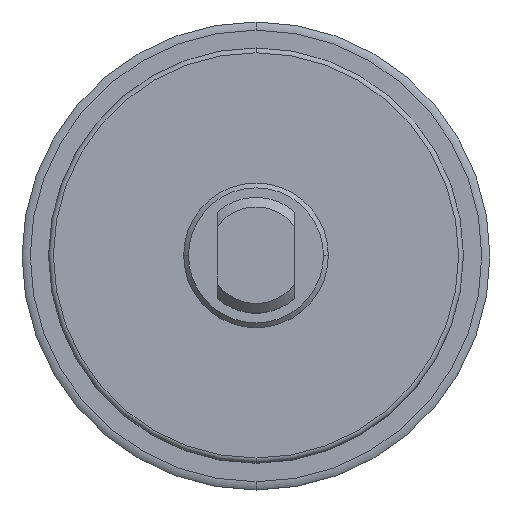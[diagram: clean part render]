
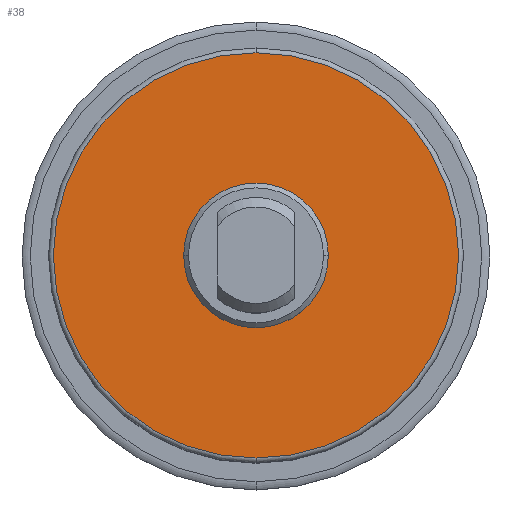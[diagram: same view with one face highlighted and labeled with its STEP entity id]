
A CAD part, top view. The second image highlights one B-rep face of the part: STEP entity #38.
In plain terms, the highlighted planar face has unit normal (0, 0, 1).
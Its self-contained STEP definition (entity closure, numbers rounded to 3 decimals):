
#5 = DIRECTION ( 'NONE',  ( 0., 0., -1. ) ) ;
#38 = ADVANCED_FACE ( 'NONE', ( #3368, #1412 ), #3739, .T. ) ;
#147 = ORIENTED_EDGE ( 'NONE', *, *, #2077, .F. ) ;
#223 = CIRCLE ( 'NONE', #2385, 21. ) ;
#238 = EDGE_CURVE ( 'NONE', #3777, #2103, #635, .T. ) ;
#338 = AXIS2_PLACEMENT_3D ( 'NONE', #1928, #2530, #2819 ) ;
#530 = AXIS2_PLACEMENT_3D ( 'NONE', #1944, #3716, #3728 ) ;
#635 = CIRCLE ( 'NONE', #3119, 7.5 ) ;
#900 = CARTESIAN_POINT ( 'NONE',  ( 0., 0., 25.9 ) ) ;
#1143 = CARTESIAN_POINT ( 'NONE',  ( 0., 21., 25.9 ) ) ;
#1302 = ORIENTED_EDGE ( 'NONE', *, *, #238, .F. ) ;
#1412 = FACE_OUTER_BOUND ( 'NONE', #2636, .T. ) ;
#1484 = EDGE_CURVE ( 'NONE', #3464, #2447, #2387, .T. ) ;
#1520 = DIRECTION ( 'NONE',  ( 0., 0., 1. ) ) ;
#1836 = CARTESIAN_POINT ( 'NONE',  ( 0., 0., 25.9 ) ) ;
#1928 = CARTESIAN_POINT ( 'NONE',  ( 0., 0., 25.9 ) ) ;
#1944 = CARTESIAN_POINT ( 'NONE',  ( 0., 0., 25.9 ) ) ;
#2061 = DIRECTION ( 'NONE',  ( 0., 1., 0. ) ) ;
#2077 = EDGE_CURVE ( 'NONE', #2447, #3464, #223, .T. ) ;
#2103 = VERTEX_POINT ( 'NONE', #2689 ) ;
#2226 = CARTESIAN_POINT ( 'NONE',  ( -7.5, 0., 25.9 ) ) ;
#2385 = AXIS2_PLACEMENT_3D ( 'NONE', #2633, #5, #2061 ) ;
#2387 = CIRCLE ( 'NONE', #338, 21. ) ;
#2447 = VERTEX_POINT ( 'NONE', #1143 ) ;
#2500 = CARTESIAN_POINT ( 'NONE',  ( 0., -21., 25.9 ) ) ;
#2530 = DIRECTION ( 'NONE',  ( 0., 0., -1. ) ) ;
#2633 = CARTESIAN_POINT ( 'NONE',  ( 0., 0., 25.9 ) ) ;
#2636 = EDGE_LOOP ( 'NONE', ( #147, #2971 ) ) ;
#2662 = DIRECTION ( 'NONE',  ( 1., 0., 0. ) ) ;
#2689 = CARTESIAN_POINT ( 'NONE',  ( 7.5, 0., 25.9 ) ) ;
#2819 = DIRECTION ( 'NONE',  ( 0., 1., 0. ) ) ;
#2904 = ORIENTED_EDGE ( 'NONE', *, *, #3606, .F. ) ;
#2971 = ORIENTED_EDGE ( 'NONE', *, *, #1484, .F. ) ;
#3119 = AXIS2_PLACEMENT_3D ( 'NONE', #1836, #1520, #2662 ) ;
#3186 = AXIS2_PLACEMENT_3D ( 'NONE', #900, #3249, #3535 ) ;
#3249 = DIRECTION ( 'NONE',  ( 0., 0., 1. ) ) ;
#3297 = EDGE_LOOP ( 'NONE', ( #1302, #2904 ) ) ;
#3368 = FACE_BOUND ( 'NONE', #3297, .T. ) ;
#3464 = VERTEX_POINT ( 'NONE', #2500 ) ;
#3535 = DIRECTION ( 'NONE',  ( 1., 0., 0. ) ) ;
#3606 = EDGE_CURVE ( 'NONE', #2103, #3777, #3736, .T. ) ;
#3716 = DIRECTION ( 'NONE',  ( 0., 0., 1. ) ) ;
#3728 = DIRECTION ( 'NONE',  ( 0., -1., 0. ) ) ;
#3736 = CIRCLE ( 'NONE', #3186, 7.5 ) ;
#3739 = PLANE ( 'NONE',  #530 ) ;
#3777 = VERTEX_POINT ( 'NONE', #2226 ) ;
